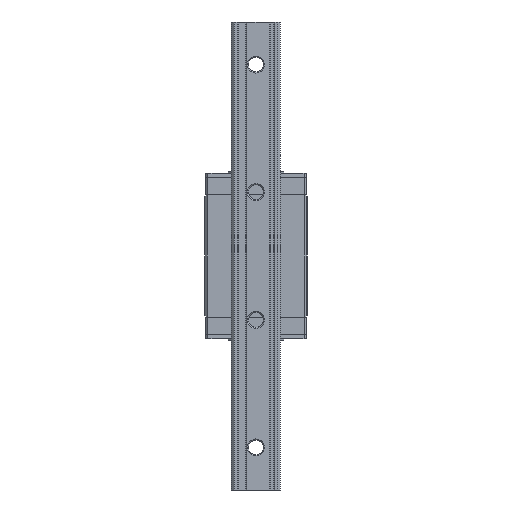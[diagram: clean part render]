
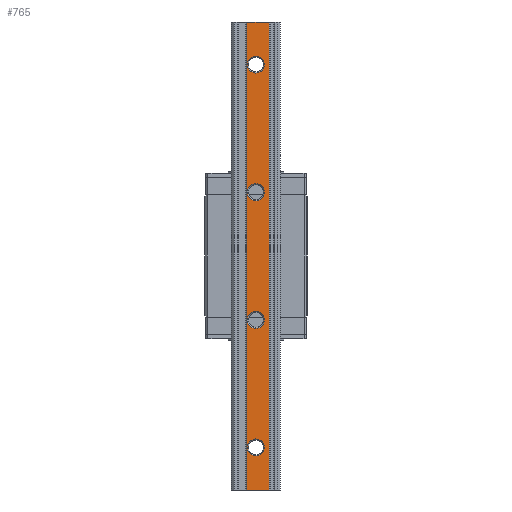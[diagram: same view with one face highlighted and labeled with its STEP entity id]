
A CAD part, front view. The second image highlights one B-rep face of the part: STEP entity #765.
In plain terms, the highlighted planar face has unit normal (0, -1, 0).
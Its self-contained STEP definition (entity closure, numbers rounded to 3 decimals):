
#249 = AXIS2_PLACEMENT_3D ( 'NONE', #6884, #13844, #11143 ) ;
#393 = CARTESIAN_POINT ( 'NONE',  ( 6.3, -19.2, 110. ) ) ;
#631 = DIRECTION ( 'NONE',  ( 0., 0., 1. ) ) ;
#765 = ADVANCED_FACE ( 'NONE', ( #6230, #8921, #17111, #13098, #15466 ), #16765, .F. ) ;
#804 = CARTESIAN_POINT ( 'NONE',  ( -4.3, -19.2, -110. ) ) ;
#1071 = AXIS2_PLACEMENT_3D ( 'NONE', #3701, #3532, #14331 ) ;
#1089 = EDGE_CURVE ( 'NONE', #12557, #1090, #9872, .T. ) ;
#1090 = VERTEX_POINT ( 'NONE', #11004 ) ;
#1223 = CARTESIAN_POINT ( 'NONE',  ( 0., -19.2, -34. ) ) ;
#1357 = DIRECTION ( 'NONE',  ( 0., 1., 0. ) ) ;
#1364 = CARTESIAN_POINT ( 'NONE',  ( 0., -19.2, 34. ) ) ;
#1591 = ORIENTED_EDGE ( 'NONE', *, *, #3571, .T. ) ;
#1773 = DIRECTION ( 'NONE',  ( 0., 1., 0. ) ) ;
#1780 = EDGE_CURVE ( 'NONE', #12557, #4908, #12443, .T. ) ;
#2032 = CARTESIAN_POINT ( 'NONE',  ( 0., -19.2, -90. ) ) ;
#2383 = EDGE_CURVE ( 'NONE', #11275, #4418, #2823, .T. ) ;
#2430 = DIRECTION ( 'NONE',  ( 0., 1., 0. ) ) ;
#2461 = VECTOR ( 'NONE', #5691, 1000. ) ;
#2656 = CARTESIAN_POINT ( 'NONE',  ( 0., -19.2, 90. ) ) ;
#2763 = CARTESIAN_POINT ( 'NONE',  ( 0., -19.2, -30. ) ) ;
#2789 = ORIENTED_EDGE ( 'NONE', *, *, #4772, .T. ) ;
#2823 = CIRCLE ( 'NONE', #6974, 4. ) ;
#2944 = ORIENTED_EDGE ( 'NONE', *, *, #4361, .T. ) ;
#3005 = VERTEX_POINT ( 'NONE', #12355 ) ;
#3068 = VERTEX_POINT ( 'NONE', #10964 ) ;
#3114 = ORIENTED_EDGE ( 'NONE', *, *, #9117, .F. ) ;
#3289 = VERTEX_POINT ( 'NONE', #1223 ) ;
#3357 = CARTESIAN_POINT ( 'NONE',  ( 0., -19.2, -30. ) ) ;
#3455 = ORIENTED_EDGE ( 'NONE', *, *, #4093, .T. ) ;
#3532 = DIRECTION ( 'NONE',  ( 0., 1., 0. ) ) ;
#3571 = EDGE_CURVE ( 'NONE', #4418, #11275, #12643, .T. ) ;
#3701 = CARTESIAN_POINT ( 'NONE',  ( -4.3, -19.2, 110. ) ) ;
#4093 = EDGE_CURVE ( 'NONE', #4908, #9787, #11408, .T. ) ;
#4361 = EDGE_CURVE ( 'NONE', #13742, #3289, #11809, .T. ) ;
#4390 = LINE ( 'NONE', #393, #4495 ) ;
#4418 = VERTEX_POINT ( 'NONE', #6746 ) ;
#4483 = CARTESIAN_POINT ( 'NONE',  ( -4.3, -19.2, 110. ) ) ;
#4495 = VECTOR ( 'NONE', #7169, 1000. ) ;
#4772 = EDGE_CURVE ( 'NONE', #5907, #3068, #14696, .T. ) ;
#4908 = VERTEX_POINT ( 'NONE', #8184 ) ;
#4930 = AXIS2_PLACEMENT_3D ( 'NONE', #3357, #9885, #8569 ) ;
#4996 = EDGE_LOOP ( 'NONE', ( #13652, #8080 ) ) ;
#5134 = AXIS2_PLACEMENT_3D ( 'NONE', #10241, #2430, #13982 ) ;
#5428 = VECTOR ( 'NONE', #11571, 1000. ) ;
#5651 = CARTESIAN_POINT ( 'NONE',  ( 0., -19.2, -86. ) ) ;
#5691 = DIRECTION ( 'NONE',  ( 1., 0., 0. ) ) ;
#5727 = AXIS2_PLACEMENT_3D ( 'NONE', #8525, #8691, #631 ) ;
#5760 = CIRCLE ( 'NONE', #4930, 4. ) ;
#5814 = AXIS2_PLACEMENT_3D ( 'NONE', #2763, #6842, #7003 ) ;
#5907 = VERTEX_POINT ( 'NONE', #1364 ) ;
#6051 = DIRECTION ( 'NONE',  ( 0., 0., 1. ) ) ;
#6136 = DIRECTION ( 'NONE',  ( 0., 1., 0. ) ) ;
#6230 = FACE_BOUND ( 'NONE', #13222, .T. ) ;
#6746 = CARTESIAN_POINT ( 'NONE',  ( 0., -19.2, 94. ) ) ;
#6842 = DIRECTION ( 'NONE',  ( 0., 1., 0. ) ) ;
#6884 = CARTESIAN_POINT ( 'NONE',  ( 0., -19.2, 30. ) ) ;
#6933 = EDGE_CURVE ( 'NONE', #3289, #13742, #5760, .T. ) ;
#6974 = AXIS2_PLACEMENT_3D ( 'NONE', #2656, #1357, #9426 ) ;
#7003 = DIRECTION ( 'NONE',  ( 0., 0., 1. ) ) ;
#7169 = DIRECTION ( 'NONE',  ( 0., 0., -1. ) ) ;
#7505 = ORIENTED_EDGE ( 'NONE', *, *, #14568, .T. ) ;
#8080 = ORIENTED_EDGE ( 'NONE', *, *, #9453, .T. ) ;
#8117 = VECTOR ( 'NONE', #12264, 1000. ) ;
#8184 = CARTESIAN_POINT ( 'NONE',  ( -4.3, -19.2, -110. ) ) ;
#8525 = CARTESIAN_POINT ( 'NONE',  ( 0., -19.2, 30. ) ) ;
#8569 = DIRECTION ( 'NONE',  ( 0., 0., 1. ) ) ;
#8691 = DIRECTION ( 'NONE',  ( 0., 1., 0. ) ) ;
#8921 = FACE_BOUND ( 'NONE', #4996, .T. ) ;
#9117 = EDGE_CURVE ( 'NONE', #1090, #9787, #4390, .T. ) ;
#9426 = DIRECTION ( 'NONE',  ( 0., 0., 1. ) ) ;
#9453 = EDGE_CURVE ( 'NONE', #12201, #3005, #14184, .T. ) ;
#9787 = VERTEX_POINT ( 'NONE', #12859 ) ;
#9872 = LINE ( 'NONE', #15104, #2461 ) ;
#9885 = DIRECTION ( 'NONE',  ( 0., 1., 0. ) ) ;
#10241 = CARTESIAN_POINT ( 'NONE',  ( 0., -19.2, 90. ) ) ;
#10953 = CIRCLE ( 'NONE', #11243, 4. ) ;
#10964 = CARTESIAN_POINT ( 'NONE',  ( 0., -19.2, 26. ) ) ;
#11004 = CARTESIAN_POINT ( 'NONE',  ( 6.3, -19.2, 110. ) ) ;
#11047 = ORIENTED_EDGE ( 'NONE', *, *, #1780, .T. ) ;
#11143 = DIRECTION ( 'NONE',  ( 0., 0., 1. ) ) ;
#11243 = AXIS2_PLACEMENT_3D ( 'NONE', #11276, #6136, #6051 ) ;
#11275 = VERTEX_POINT ( 'NONE', #16248 ) ;
#11276 = CARTESIAN_POINT ( 'NONE',  ( 0., -19.2, -90. ) ) ;
#11320 = ORIENTED_EDGE ( 'NONE', *, *, #1089, .F. ) ;
#11408 = LINE ( 'NONE', #804, #5428 ) ;
#11571 = DIRECTION ( 'NONE',  ( 1., 0., 0. ) ) ;
#11639 = EDGE_LOOP ( 'NONE', ( #3455, #3114, #11320, #11047 ) ) ;
#11809 = CIRCLE ( 'NONE', #5814, 4. ) ;
#12201 = VERTEX_POINT ( 'NONE', #5651 ) ;
#12264 = DIRECTION ( 'NONE',  ( 0., 0., -1. ) ) ;
#12352 = CARTESIAN_POINT ( 'NONE',  ( -4.3, -19.2, 110. ) ) ;
#12355 = CARTESIAN_POINT ( 'NONE',  ( 0., -19.2, -94. ) ) ;
#12443 = LINE ( 'NONE', #12352, #8117 ) ;
#12557 = VERTEX_POINT ( 'NONE', #4483 ) ;
#12604 = EDGE_CURVE ( 'NONE', #3005, #12201, #10953, .T. ) ;
#12643 = CIRCLE ( 'NONE', #5134, 4. ) ;
#12859 = CARTESIAN_POINT ( 'NONE',  ( 6.3, -19.2, -110. ) ) ;
#12961 = CIRCLE ( 'NONE', #5727, 4. ) ;
#13098 = FACE_BOUND ( 'NONE', #15439, .T. ) ;
#13222 = EDGE_LOOP ( 'NONE', ( #13879, #2944 ) ) ;
#13652 = ORIENTED_EDGE ( 'NONE', *, *, #12604, .T. ) ;
#13742 = VERTEX_POINT ( 'NONE', #16864 ) ;
#13844 = DIRECTION ( 'NONE',  ( 0., 1., 0. ) ) ;
#13879 = ORIENTED_EDGE ( 'NONE', *, *, #6933, .T. ) ;
#13982 = DIRECTION ( 'NONE',  ( 0., 0., 1. ) ) ;
#14184 = CIRCLE ( 'NONE', #15022, 4. ) ;
#14331 = DIRECTION ( 'NONE',  ( 0., 0., 1. ) ) ;
#14568 = EDGE_CURVE ( 'NONE', #3068, #5907, #12961, .T. ) ;
#14696 = CIRCLE ( 'NONE', #249, 4. ) ;
#15022 = AXIS2_PLACEMENT_3D ( 'NONE', #2032, #1773, #16291 ) ;
#15104 = CARTESIAN_POINT ( 'NONE',  ( -4.3, -19.2, 110. ) ) ;
#15439 = EDGE_LOOP ( 'NONE', ( #16861, #1591 ) ) ;
#15466 = FACE_OUTER_BOUND ( 'NONE', #11639, .T. ) ;
#16248 = CARTESIAN_POINT ( 'NONE',  ( 0., -19.2, 86. ) ) ;
#16291 = DIRECTION ( 'NONE',  ( 0., 0., 1. ) ) ;
#16606 = EDGE_LOOP ( 'NONE', ( #7505, #2789 ) ) ;
#16765 = PLANE ( 'NONE',  #1071 ) ;
#16861 = ORIENTED_EDGE ( 'NONE', *, *, #2383, .T. ) ;
#16864 = CARTESIAN_POINT ( 'NONE',  ( 0., -19.2, -26. ) ) ;
#17111 = FACE_BOUND ( 'NONE', #16606, .T. ) ;
